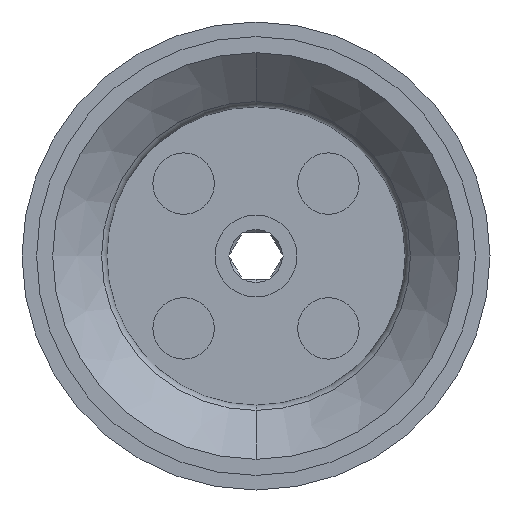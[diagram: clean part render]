
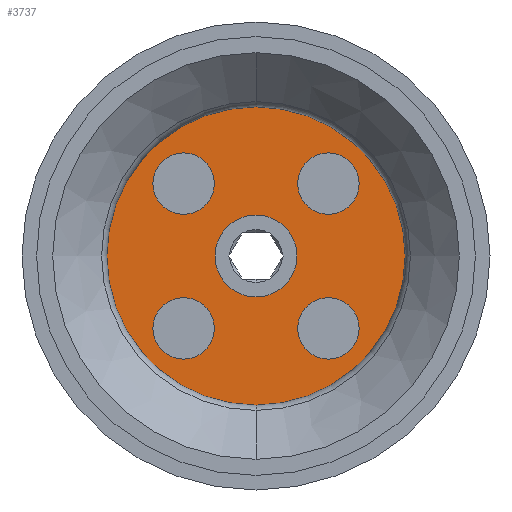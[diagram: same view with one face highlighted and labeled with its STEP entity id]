
A CAD part, front view. The second image highlights one B-rep face of the part: STEP entity #3737.
In plain terms, the highlighted planar face has unit normal (0, -1, 0).
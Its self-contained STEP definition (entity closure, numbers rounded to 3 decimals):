
#61 = DIRECTION ( 'NONE',  ( 0., -1., 0. ) ) ;
#314 = CARTESIAN_POINT ( 'NONE',  ( 0., -9., 0. ) ) ;
#515 = VERTEX_POINT ( 'NONE', #4244 ) ;
#723 = FACE_BOUND ( 'NONE', #3734, .T. ) ;
#738 = CIRCLE ( 'NONE', #6532, 28.909 ) ;
#755 = EDGE_LOOP ( 'NONE', ( #10564, #3274 ) ) ;
#788 = EDGE_CURVE ( 'NONE', #5700, #9014, #8112, .T. ) ;
#933 = ORIENTED_EDGE ( 'NONE', *, *, #788, .F. ) ;
#974 = CARTESIAN_POINT ( 'NONE',  ( 12.374, -9., 12.374 ) ) ;
#983 = CARTESIAN_POINT ( 'NONE',  ( -7.124, -9., -12.374 ) ) ;
#1027 = CARTESIAN_POINT ( 'NONE',  ( 0., -9., -28.909 ) ) ;
#1060 = AXIS2_PLACEMENT_3D ( 'NONE', #8760, #5434, #7189 ) ;
#1091 = CARTESIAN_POINT ( 'NONE',  ( -12.374, -9., -12.374 ) ) ;
#1180 = DIRECTION ( 'NONE',  ( 0., 0., -1. ) ) ;
#1334 = EDGE_CURVE ( 'NONE', #4346, #7045, #3783, .T. ) ;
#1455 = CARTESIAN_POINT ( 'NONE',  ( 0., -9., 0. ) ) ;
#1580 = AXIS2_PLACEMENT_3D ( 'NONE', #3120, #6476, #9072 ) ;
#1638 = FACE_BOUND ( 'NONE', #7864, .T. ) ;
#1820 = CIRCLE ( 'NONE', #2547, 28.909 ) ;
#2002 = EDGE_LOOP ( 'NONE', ( #10222, #6427 ) ) ;
#2370 = PLANE ( 'NONE',  #5746 ) ;
#2449 = EDGE_CURVE ( 'NONE', #6203, #9800, #1820, .T. ) ;
#2547 = AXIS2_PLACEMENT_3D ( 'NONE', #4078, #10242, #10925 ) ;
#2618 = EDGE_CURVE ( 'NONE', #9800, #6203, #738, .T. ) ;
#2839 = CARTESIAN_POINT ( 'NONE',  ( -12.374, -9., -12.374 ) ) ;
#3094 = EDGE_CURVE ( 'NONE', #10934, #515, #3141, .T. ) ;
#3120 = CARTESIAN_POINT ( 'NONE',  ( -12.374, -9., 12.374 ) ) ;
#3141 = CIRCLE ( 'NONE', #6949, 5.25 ) ;
#3178 = EDGE_CURVE ( 'NONE', #9423, #5630, #5120, .T. ) ;
#3220 = ORIENTED_EDGE ( 'NONE', *, *, #8870, .F. ) ;
#3262 = DIRECTION ( 'NONE',  ( -1., 0., 0. ) ) ;
#3274 = ORIENTED_EDGE ( 'NONE', *, *, #3094, .F. ) ;
#3419 = EDGE_CURVE ( 'NONE', #7045, #4346, #7364, .T. ) ;
#3468 = ORIENTED_EDGE ( 'NONE', *, *, #2449, .F. ) ;
#3524 = AXIS2_PLACEMENT_3D ( 'NONE', #2839, #61, #6299 ) ;
#3734 = EDGE_LOOP ( 'NONE', ( #9983, #933 ) ) ;
#3737 = ADVANCED_FACE ( 'NONE', ( #10972, #1638, #4247, #5041, #723, #4067 ), #2370, .T. ) ;
#3783 = CIRCLE ( 'NONE', #1060, 5.25 ) ;
#3805 = CARTESIAN_POINT ( 'NONE',  ( 7., -9., 0. ) ) ;
#4049 = CARTESIAN_POINT ( 'NONE',  ( -7.124, -9., 12.374 ) ) ;
#4067 = FACE_OUTER_BOUND ( 'NONE', #9171, .T. ) ;
#4078 = CARTESIAN_POINT ( 'NONE',  ( 0., -9., 0. ) ) ;
#4244 = CARTESIAN_POINT ( 'NONE',  ( 17.624, -9., 12.374 ) ) ;
#4247 = FACE_BOUND ( 'NONE', #7981, .T. ) ;
#4332 = DIRECTION ( 'NONE',  ( 0., -1., 0. ) ) ;
#4346 = VERTEX_POINT ( 'NONE', #10529 ) ;
#4444 = DIRECTION ( 'NONE',  ( 0., -1., 0. ) ) ;
#4597 = CARTESIAN_POINT ( 'NONE',  ( 12.374, -9., 12.374 ) ) ;
#4624 = ORIENTED_EDGE ( 'NONE', *, *, #3419, .F. ) ;
#4681 = AXIS2_PLACEMENT_3D ( 'NONE', #314, #7236, #9032 ) ;
#4802 = EDGE_CURVE ( 'NONE', #6250, #6371, #5047, .T. ) ;
#5041 = FACE_BOUND ( 'NONE', #2002, .T. ) ;
#5047 = CIRCLE ( 'NONE', #5943, 5.25 ) ;
#5120 = CIRCLE ( 'NONE', #9879, 5.25 ) ;
#5154 = CARTESIAN_POINT ( 'NONE',  ( -17.624, -9., -12.374 ) ) ;
#5434 = DIRECTION ( 'NONE',  ( 0., -1., 0. ) ) ;
#5528 = CIRCLE ( 'NONE', #3524, 5.25 ) ;
#5630 = VERTEX_POINT ( 'NONE', #5154 ) ;
#5700 = VERTEX_POINT ( 'NONE', #9126 ) ;
#5710 = CARTESIAN_POINT ( 'NONE',  ( 0., -9., 28.909 ) ) ;
#5746 = AXIS2_PLACEMENT_3D ( 'NONE', #9316, #6618, #8417 ) ;
#5842 = CIRCLE ( 'NONE', #7828, 5.25 ) ;
#5856 = CARTESIAN_POINT ( 'NONE',  ( 12.374, -9., -12.374 ) ) ;
#5943 = AXIS2_PLACEMENT_3D ( 'NONE', #5856, #4332, #7780 ) ;
#5973 = DIRECTION ( 'NONE',  ( 0., -1., 0. ) ) ;
#6008 = CIRCLE ( 'NONE', #9070, 7. ) ;
#6203 = VERTEX_POINT ( 'NONE', #5710 ) ;
#6221 = DIRECTION ( 'NONE',  ( 0., 0., -1. ) ) ;
#6250 = VERTEX_POINT ( 'NONE', #10808 ) ;
#6299 = DIRECTION ( 'NONE',  ( 0., 0., -1. ) ) ;
#6326 = EDGE_CURVE ( 'NONE', #6371, #6250, #8310, .T. ) ;
#6371 = VERTEX_POINT ( 'NONE', #6684 ) ;
#6381 = ORIENTED_EDGE ( 'NONE', *, *, #2618, .F. ) ;
#6427 = ORIENTED_EDGE ( 'NONE', *, *, #6326, .F. ) ;
#6476 = DIRECTION ( 'NONE',  ( 0., -1., 0. ) ) ;
#6532 = AXIS2_PLACEMENT_3D ( 'NONE', #9489, #7986, #6221 ) ;
#6618 = DIRECTION ( 'NONE',  ( 0., -1., 0. ) ) ;
#6684 = CARTESIAN_POINT ( 'NONE',  ( 7.124, -9., -12.374 ) ) ;
#6792 = EDGE_CURVE ( 'NONE', #9014, #5700, #6008, .T. ) ;
#6949 = AXIS2_PLACEMENT_3D ( 'NONE', #974, #4444, #9464 ) ;
#7045 = VERTEX_POINT ( 'NONE', #4049 ) ;
#7142 = DIRECTION ( 'NONE',  ( 0., 0., -1. ) ) ;
#7157 = EDGE_CURVE ( 'NONE', #515, #10934, #5842, .T. ) ;
#7161 = DIRECTION ( 'NONE',  ( 0., -1., 0. ) ) ;
#7189 = DIRECTION ( 'NONE',  ( 0., 0., -1. ) ) ;
#7236 = DIRECTION ( 'NONE',  ( 0., -1., 0. ) ) ;
#7364 = CIRCLE ( 'NONE', #1580, 5.25 ) ;
#7780 = DIRECTION ( 'NONE',  ( 0., 0., -1. ) ) ;
#7828 = AXIS2_PLACEMENT_3D ( 'NONE', #4597, #5973, #7142 ) ;
#7864 = EDGE_LOOP ( 'NONE', ( #4624, #11022 ) ) ;
#7981 = EDGE_LOOP ( 'NONE', ( #8976, #3220 ) ) ;
#7986 = DIRECTION ( 'NONE',  ( 0., 1., 0. ) ) ;
#8112 = CIRCLE ( 'NONE', #4681, 7. ) ;
#8126 = DIRECTION ( 'NONE',  ( 0., 0., -1. ) ) ;
#8237 = CARTESIAN_POINT ( 'NONE',  ( 7.124, -9., 12.374 ) ) ;
#8302 = AXIS2_PLACEMENT_3D ( 'NONE', #10864, #10753, #1180 ) ;
#8310 = CIRCLE ( 'NONE', #8302, 5.25 ) ;
#8417 = DIRECTION ( 'NONE',  ( 0., 0., -1. ) ) ;
#8760 = CARTESIAN_POINT ( 'NONE',  ( -12.374, -9., 12.374 ) ) ;
#8870 = EDGE_CURVE ( 'NONE', #5630, #9423, #5528, .T. ) ;
#8976 = ORIENTED_EDGE ( 'NONE', *, *, #3178, .F. ) ;
#9014 = VERTEX_POINT ( 'NONE', #3805 ) ;
#9032 = DIRECTION ( 'NONE',  ( -1., 0., 0. ) ) ;
#9070 = AXIS2_PLACEMENT_3D ( 'NONE', #1455, #9369, #3262 ) ;
#9072 = DIRECTION ( 'NONE',  ( 0., 0., -1. ) ) ;
#9126 = CARTESIAN_POINT ( 'NONE',  ( -7., -9., 0. ) ) ;
#9171 = EDGE_LOOP ( 'NONE', ( #6381, #3468 ) ) ;
#9316 = CARTESIAN_POINT ( 'NONE',  ( 0., -9., 0. ) ) ;
#9369 = DIRECTION ( 'NONE',  ( 0., -1., 0. ) ) ;
#9423 = VERTEX_POINT ( 'NONE', #983 ) ;
#9464 = DIRECTION ( 'NONE',  ( 0., 0., -1. ) ) ;
#9489 = CARTESIAN_POINT ( 'NONE',  ( 0., -9., 0. ) ) ;
#9800 = VERTEX_POINT ( 'NONE', #1027 ) ;
#9879 = AXIS2_PLACEMENT_3D ( 'NONE', #1091, #7161, #8126 ) ;
#9983 = ORIENTED_EDGE ( 'NONE', *, *, #6792, .F. ) ;
#10222 = ORIENTED_EDGE ( 'NONE', *, *, #4802, .F. ) ;
#10242 = DIRECTION ( 'NONE',  ( 0., 1., 0. ) ) ;
#10529 = CARTESIAN_POINT ( 'NONE',  ( -17.624, -9., 12.374 ) ) ;
#10564 = ORIENTED_EDGE ( 'NONE', *, *, #7157, .F. ) ;
#10753 = DIRECTION ( 'NONE',  ( 0., -1., 0. ) ) ;
#10808 = CARTESIAN_POINT ( 'NONE',  ( 17.624, -9., -12.374 ) ) ;
#10864 = CARTESIAN_POINT ( 'NONE',  ( 12.374, -9., -12.374 ) ) ;
#10925 = DIRECTION ( 'NONE',  ( 0., 0., -1. ) ) ;
#10934 = VERTEX_POINT ( 'NONE', #8237 ) ;
#10972 = FACE_BOUND ( 'NONE', #755, .T. ) ;
#11022 = ORIENTED_EDGE ( 'NONE', *, *, #1334, .F. ) ;
